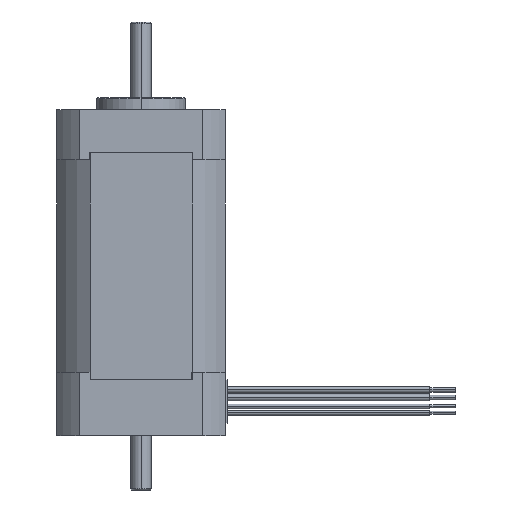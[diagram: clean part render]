
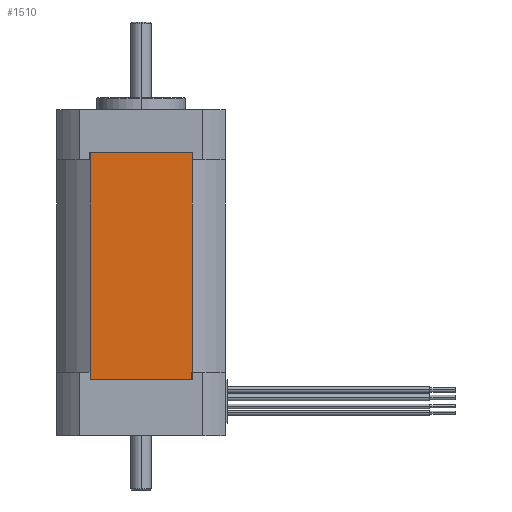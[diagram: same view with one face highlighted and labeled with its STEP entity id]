
A CAD part, left-side view. The second image highlights one B-rep face of the part: STEP entity #1510.
In plain terms, the highlighted planar face has unit normal (-1, 0, 0).
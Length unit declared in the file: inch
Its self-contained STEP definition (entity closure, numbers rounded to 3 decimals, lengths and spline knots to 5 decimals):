
#1435 = EDGE_CURVE ( 'NONE', #7010, #7013, #3050, .T. ) ;
#1510 = ADVANCED_FACE ( 'NONE', ( #4393 ), #4394, .F. ) ;
#3047 = CARTESIAN_POINT ( 'NONE',  ( -0.826, -0.49895, -2.639 ) ) ;
#3050 = LINE ( 'NONE', #3047, #6624 ) ;
#3054 = DIRECTION ( 'NONE',  ( 0., 1., 0. ) ) ;
#3585 = CARTESIAN_POINT ( 'NONE',  ( -0.826, -0.49895, -2.639 ) ) ;
#3588 = CARTESIAN_POINT ( 'NONE',  ( -0.826, 0.49895, -2.639 ) ) ;
#3597 = CARTESIAN_POINT ( 'NONE',  ( -0.826, -0.49895, -0.42 ) ) ;
#3610 = CARTESIAN_POINT ( 'NONE',  ( -0.826, 0.49895, -0.42 ) ) ;
#3957 = LINE ( 'NONE', #3959, #8736 ) ;
#3959 = CARTESIAN_POINT ( 'NONE',  ( -0.826, -0.49895, -2.639 ) ) ;
#3960 = DIRECTION ( 'NONE',  ( 0., 0., 1. ) ) ;
#3996 = LINE ( 'NONE', #3997, #8752 ) ;
#3997 = CARTESIAN_POINT ( 'NONE',  ( -0.826, -0.49895, -0.42 ) ) ;
#3998 = DIRECTION ( 'NONE',  ( 0., 1., 0. ) ) ;
#4004 = LINE ( 'NONE', #4005, #8756 ) ;
#4005 = CARTESIAN_POINT ( 'NONE',  ( -0.826, 0.49895, -2.639 ) ) ;
#4006 = DIRECTION ( 'NONE',  ( 0., 0., 1. ) ) ;
#4393 = FACE_OUTER_BOUND ( 'NONE', #7852, .T. ) ;
#4394 = PLANE ( 'NONE',  #6568 ) ;
#4406 = CARTESIAN_POINT ( 'NONE',  ( -0.826, -0.49895, -2.639 ) ) ;
#4407 = DIRECTION ( 'NONE',  ( 1., 0., 0. ) ) ;
#4408 = DIRECTION ( 'NONE',  ( 0., 1., 0. ) ) ;
#6568 = AXIS2_PLACEMENT_3D ( 'NONE', #4406, #4407, #4408 ) ;
#6624 = VECTOR ( 'NONE', #3054, 39.37008 ) ;
#7010 = VERTEX_POINT ( 'NONE', #3585 ) ;
#7013 = VERTEX_POINT ( 'NONE', #3588 ) ;
#7022 = VERTEX_POINT ( 'NONE', #3597 ) ;
#7035 = VERTEX_POINT ( 'NONE', #3610 ) ;
#7439 = ORIENTED_EDGE ( 'NONE', *, *, #9022, .T. ) ;
#7440 = ORIENTED_EDGE ( 'NONE', *, *, #9025, .F. ) ;
#7441 = ORIENTED_EDGE ( 'NONE', *, *, #1435, .F. ) ;
#7442 = ORIENTED_EDGE ( 'NONE', *, *, #9009, .T. ) ;
#7852 = EDGE_LOOP ( 'NONE', ( #7439, #7440, #7441, #7442 ) ) ;
#8736 = VECTOR ( 'NONE', #3960, 39.37008 ) ;
#8752 = VECTOR ( 'NONE', #3998, 39.37008 ) ;
#8756 = VECTOR ( 'NONE', #4006, 39.37008 ) ;
#9009 = EDGE_CURVE ( 'NONE', #7010, #7022, #3957, .T. ) ;
#9022 = EDGE_CURVE ( 'NONE', #7022, #7035, #3996, .T. ) ;
#9025 = EDGE_CURVE ( 'NONE', #7013, #7035, #4004, .T. ) ;
